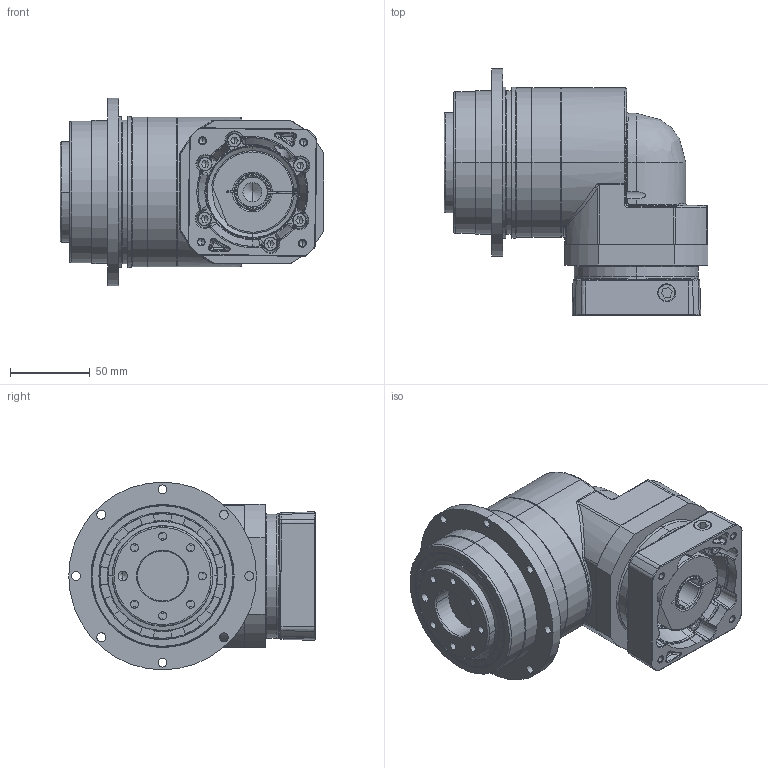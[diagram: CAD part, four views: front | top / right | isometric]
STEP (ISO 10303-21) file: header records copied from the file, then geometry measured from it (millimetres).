
FILE_DESCRIPTION (( 'STEP AP214' ), '1' );
FILE_NAME ('EVT090F-L1-P1 19-70-90-M5-45.STEP', '2025-02-17T06:51:58', ( '微软用户' ), ( '微软中国' ), 'SwSTEP 2.0', 'SolidWorks 2021', '' );
FILE_SCHEMA (( 'AUTOMOTIVE_DESIGN' ));
Length unit declared in the file: millimetre
Products named in the file (4): 7-EVT090F_________stp_stp.stp.STEP; EVT090D-L1-10-80-100-M6-45.STEP; EVT090D-L1-19-70-90-M5-45.STEP; EVT090F-L1-P1 19-70-90-M5-45
Assembly tree (4 placements, depth 2):
  EVT090F-L1-P1 19-70-90-M5-45
    EVT090D-L1-19-70-90-M5-45.STEP
    7-EVT090F_________stp_stp.stp.STEP
    EVT090D-L1-10-80-100-M6-45.STEP  x2
Bounding box: 166 x 155.02 x 118 mm (x, y, z)
Volume: 242188.5 mm3; surface area: 225930.7 mm2
Topology: 1 solids, 33 shells, 1287 faces, 3189 edges, 2013 vertices
Faces by surface type: cylinder 417, plane 375, bspline 267, cone 219, torus 9
Entity records: 62075 total; most frequent: CARTESIAN_POINT 34257, ORIENTED_EDGE 6044, DIRECTION 5212, EDGE_CURVE 3064, AXIS2_PLACEMENT_3D 2066, VERTEX_POINT 1965, EDGE_LOOP 1417, ADVANCED_FACE 1258
